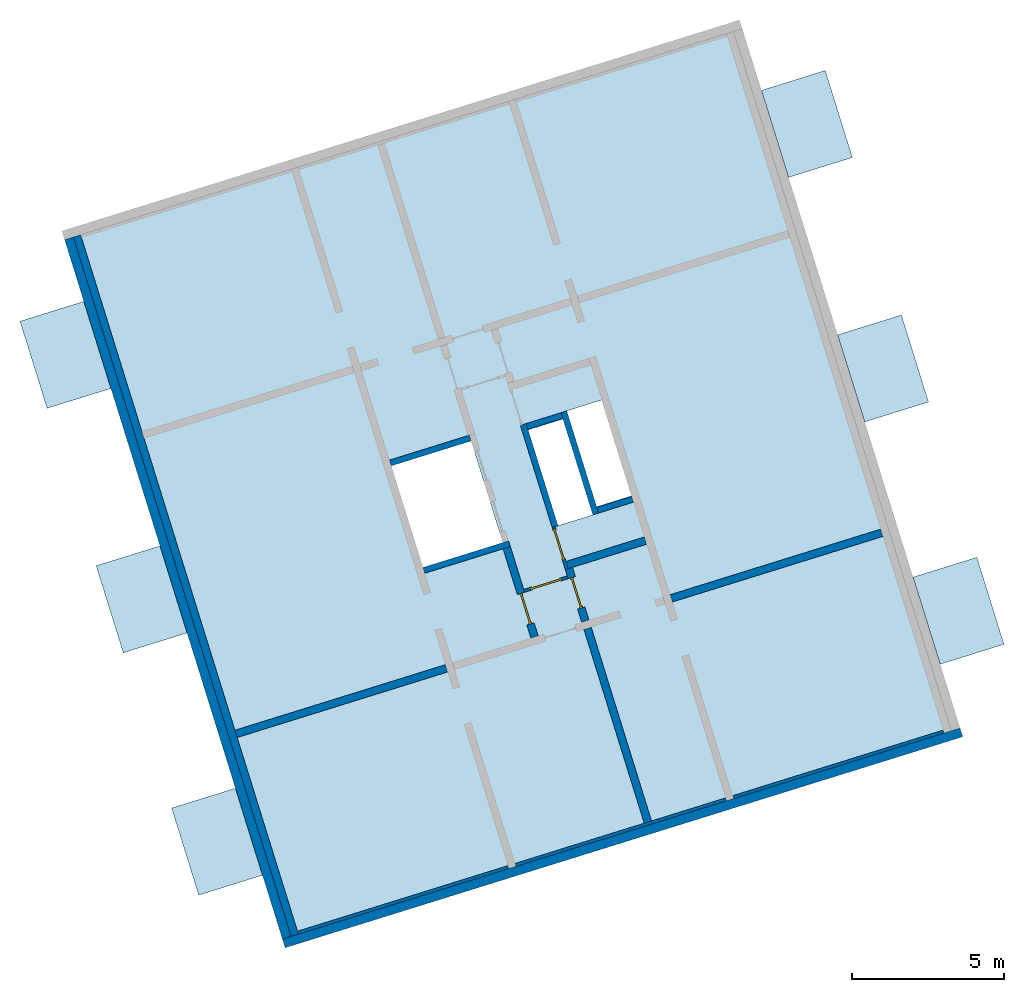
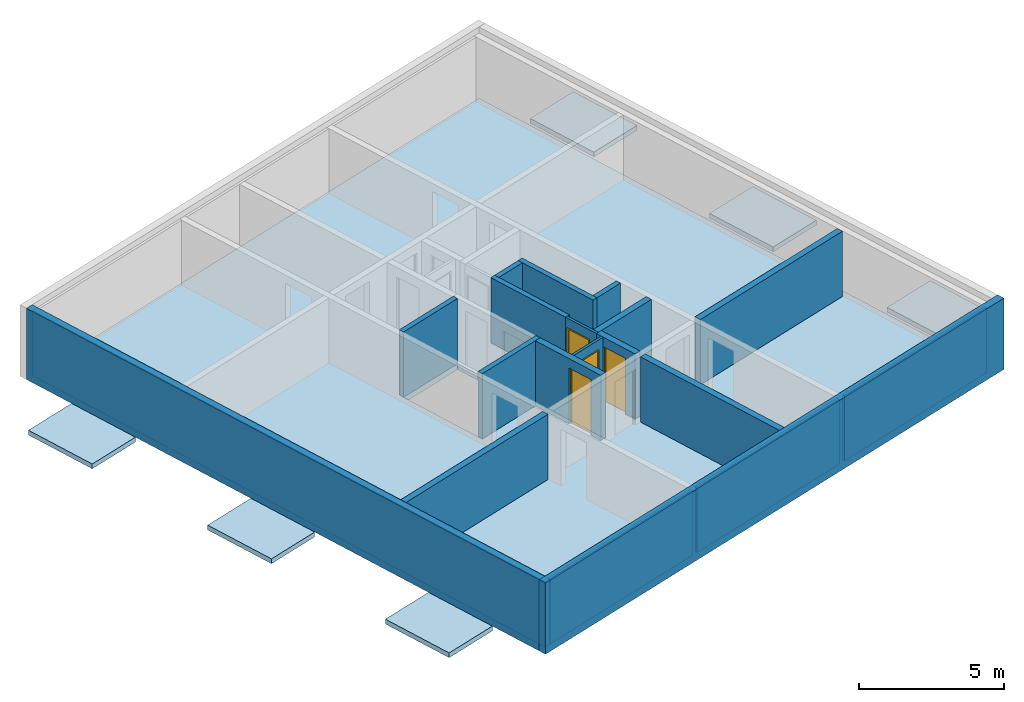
# One storey, part 1 of 3: 20 walls, 7 slabs, 4 doors, 6 openings.
"""IFC4 building model written with IfcOpenShell, lengths in metres."""

from ifc_helpers import new_model, entity, si_unit, converted_unit, direction, frame, origin, place, context, subcontext, project, spatial, indexed_curve, outline, extrude, polygons, source, transform, mapped, material, constituent, constituent_set, type_object, type_shapes, element, fill, save


model = new_model("IFC4")

# Units and contexts
model_context = context("Model", 3, precision=1e-05, world=origin(), true_north=direction((6.12323399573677e-17, 1.0)))
body_context = subcontext(model_context, "Body", "Model", "MODEL_VIEW")
ifc_project = project(units=[si_unit("LENGTHUNIT", "METRE"), si_unit("AREAUNIT", "SQUARE_METRE"), si_unit("VOLUMEUNIT", "CUBIC_METRE"), converted_unit("PLANEANGLEUNIT", "DEGREE", entity("IfcPlaneAngleMeasure", 0.0174532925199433), si_unit("PLANEANGLEUNIT", "RADIAN"), dimensions=[0, 0, 0, 0, 0, 0, 0])], contexts=[model_context])

# Site, building, storey
site_placement = place(None, frame((13.1347999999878, 11.9886000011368, 0.0), z_axis=(0.0, 0.0, 1.0), x_axis=(0.954770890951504, 0.297342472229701, 0.0)))
site = spatial("IfcSite", under=ifc_project, at=site_placement, Name="Schiehaven", CompositionType="ELEMENT")
building_placement = place(site_placement, origin())
building = spatial("IfcBuilding", under=site, at=building_placement, Name="VORM huis", CompositionType="ELEMENT")
storey_placement = place(building_placement, frame((0.0, 0.0, 24.9)))
storey = spatial("IfcBuildingStorey", under=building, at=storey_placement, Name="08 achtste verdieping", CompositionType="ELEMENT", Elevation=24.9)

# Slab, openings
ifc_material_1 = material(Name="beton_gewapend_ihw", Category="Miscellaneous")
slab_type_1 = type_object("IfcSlabType", Name="Floor:28_FL_skelet_vloer 250mm", PredefinedType="FLOOR", material=ifc_material_1)
slab_1_placement = place(storey_placement, origin())
slab_1 = element("IfcSlab", 1, at=slab_1_placement, inside=storey, type_object=slab_type_1, material=ifc_material_1, Name="Constructieve vloer", ObjectType="Vloer", PredefinedType="FLOOR", context=body_context, shape_type="SweptSolid", body=[
    extrude(outline(indexed_curve([(-12.05, -11.375), (12.05, -11.375), (12.05, 11.375), (-12.05, 11.375), (-12.05, -11.375)], self_intersect=False), holes=[indexed_curve([(-1.75000000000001, -3.62500000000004), (-1.75000000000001, -0.875000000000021), (1.74999999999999, -0.875000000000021), (1.74999999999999, -3.62500000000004), (-1.75000000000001, -3.62500000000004)], self_intersect=False), indexed_curve([(1.76, 2.22499999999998), (1.76, 1.02499999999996), (-1.54, 1.02499999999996), (-1.54, 2.22499999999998), (1.76, 2.22499999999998)], self_intersect=False), indexed_curve([(-1.75999999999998, 3.62499999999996), (1.54, 3.62499999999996), (1.54, 2.42499999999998), (-1.75999999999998, 2.42499999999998), (-1.75999999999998, 3.62499999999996)], self_intersect=False)]), frame((16.2500000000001, 17.05, -0.249999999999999), z_axis=(0.0, 0.0, 1.0), x_axis=(0.0, -1.0, 0.0)), (0.0, 0.0, 1.0), 0.249999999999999),
])
opening_1_placement = place(slab_1_placement, origin())
element("IfcOpeningElement", 2, at=opening_1_placement, cuts=slab_1, Name="Constructieve vloer", PredefinedType="OPENING", context=body_context, shape_type="SweptSolid", body=[
    extrude(outline(indexed_curve([(-1.74999999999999, -1.37500000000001), (1.75, -1.37500000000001), (1.75, 1.37500000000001), (-1.75, 1.37500000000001), (-1.74999999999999, -1.37500000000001)], self_intersect=False)), frame((14.0, 17.05, -0.249999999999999), z_axis=(0.0, 0.0, 1.0), x_axis=(0.0, -1.0, 0.0)), (0.0, 0.0, 1.0), 0.249999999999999),
])
opening_2_placement = place(slab_1_placement, origin())
element("IfcOpeningElement", 3, at=opening_2_placement, cuts=slab_1, Name="Constructieve vloer", PredefinedType="OPENING", context=body_context, shape_type="SweptSolid", body=[
    extrude(outline(indexed_curve([(-1.65, -0.600000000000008), (1.65, -0.600000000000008), (1.65, 0.600000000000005), (-1.65, 0.600000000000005), (-1.65, -0.600000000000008)], self_intersect=False)), frame((17.8750000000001, 16.94, -0.249999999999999), z_axis=(0.0, 0.0, 1.0), x_axis=(0.0, 1.0, 0.0)), (0.0, 0.0, 1.0), 0.249999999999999),
])

# Slabs
ifc_material_2 = material(Name="beton_gewapend_prefab-element", Category="Miscellaneous")
slab_type_2 = type_object("IfcSlabType", Name="Floor:23_FL_skelet_balkon 200mm", PredefinedType="FLOOR", material=ifc_material_2)
slab_2_placement = place(storey_placement, origin())
element("IfcSlab", 4, at=slab_2_placement, inside=storey, type_object=slab_type_2, material=ifc_material_2, Name="Balkonvloer", ObjectType="Vloer", PredefinedType="FLOOR", context=body_context, shape_type="SweptSolid", body=[
    extrude(outline(indexed_curve([(-1.5, -1.1), (1.5, -1.1), (1.5, 1.09999999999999), (-1.5, 1.09999999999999), (-1.5, -1.1)], self_intersect=False)), frame((29.0250000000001, 25.475, 0.0), z_axis=(0.0, 0.0, -1.0), x_axis=(0.0, 1.0, 0.0)), (0.0, 0.0, 1.0), 0.199999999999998),
])
slab_3_placement = place(storey_placement, origin())
element("IfcSlab", 5, at=slab_3_placement, inside=storey, type_object=slab_type_2, material=ifc_material_2, Name="Balkonvloer", ObjectType="Vloer", PredefinedType="FLOOR", context=body_context, shape_type="SweptSolid", body=[
    extrude(outline(indexed_curve([(-1.5, -1.1), (1.5, -1.1), (1.5, 1.1), (-1.5, 1.1), (-1.5, -1.1)], self_intersect=False)), frame((29.0250000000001, 8.70000000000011, 0.0), z_axis=(0.0, 0.0, -1.0), x_axis=(0.0, 1.0, 0.0)), (0.0, 0.0, 1.0), 0.199999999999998),
])
slab_4_placement = place(storey_placement, origin())
element("IfcSlab", 6, at=slab_4_placement, inside=storey, type_object=slab_type_2, material=ifc_material_2, Name="Balkonvloer", ObjectType="Vloer", PredefinedType="FLOOR", context=body_context, shape_type="SweptSolid", body=[
    extrude(outline(indexed_curve([(-1.5, -1.1), (1.5, -1.1), (1.5, 1.1), (-1.5, 1.1), (-1.5, -1.1)], self_intersect=False)), frame((29.0250000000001, 17.05, 0.0), z_axis=(0.0, 0.0, -1.0), x_axis=(0.0, 1.0, 0.0)), (0.0, 0.0, 1.0), 0.199999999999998),
])
slab_5_placement = place(storey_placement, origin())
element("IfcSlab", 7, at=slab_5_placement, inside=storey, type_object=slab_type_2, material=ifc_material_2, Name="Balkonvloer", ObjectType="Vloer", PredefinedType="FLOOR", context=body_context, shape_type="SweptSolid", body=[
    extrude(outline(indexed_curve([(-1.49999999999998, -1.1), (1.50000000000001, -1.1), (1.49999999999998, 1.1), (-1.50000000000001, 1.1), (-1.49999999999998, -1.1)], self_intersect=False)), frame((3.47500000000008, 25.4750000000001, 0.0), z_axis=(0.0, 0.0, -1.0), x_axis=(0.0, 1.0, 0.0)), (0.0, 0.0, 1.0), 0.199999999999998),
])
slab_6_placement = place(storey_placement, origin())
element("IfcSlab", 8, at=slab_6_placement, inside=storey, type_object=slab_type_2, material=ifc_material_2, Name="Balkonvloer", ObjectType="Vloer", PredefinedType="FLOOR", context=body_context, shape_type="SweptSolid", body=[
    extrude(outline(indexed_curve([(-1.49999999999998, -1.1), (1.50000000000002, -1.1), (1.49999999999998, 1.1), (-1.50000000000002, 1.1), (-1.49999999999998, -1.1)], self_intersect=False)), frame((3.47499999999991, 8.70000000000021, 0.0), z_axis=(0.0, 0.0, -1.0), x_axis=(0.0, 1.0, 0.0)), (0.0, 0.0, 1.0), 0.199999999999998),
])
slab_7_placement = place(storey_placement, origin())
element("IfcSlab", 9, at=slab_7_placement, inside=storey, type_object=slab_type_2, material=ifc_material_2, Name="Balkonvloer", ObjectType="Vloer", PredefinedType="FLOOR", context=body_context, shape_type="SweptSolid", body=[
    extrude(outline(indexed_curve([(-1.49999999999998, -1.1), (1.50000000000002, -1.1), (1.49999999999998, 1.1), (-1.50000000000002, 1.1), (-1.49999999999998, -1.1)], self_intersect=False)), frame((3.47499999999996, 17.0500000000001, 0.0), z_axis=(0.0, 0.0, -1.0), x_axis=(0.0, 1.0, 0.0)), (0.0, 0.0, 1.0), 0.199999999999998),
])

# Walls
wall_type_1 = type_object("IfcWallType", Name="Basic Wall:28_WA_skelet_wand 250mm_gen", PredefinedType="STANDARD")
wall_1_placement = place(storey_placement, frame((5.0, 5.0, 0.0), z_axis=(0.0, 0.0, 1.0), x_axis=(0.0, 1.0, 0.0)))
element("IfcWall", 10, at=wall_1_placement, inside=storey, type_object=wall_type_1, material=ifc_material_1, Name="Constructieve wand", ObjectType="Wand", PredefinedType="NOTDEFINED", context=body_context, shape_type="SweptSolid", body=[
    extrude(outline(indexed_curve([(24.1, 0.125), (4.21737840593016e-16, 0.125), (-4.21737840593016e-16, -0.125), (24.1, -0.125), (24.1, 0.125)], self_intersect=False)), origin(), (0.0, 0.0, 1.0), 2.75),
])
ifc_material_3 = material(Name="ntb_ntb_ntb", Category="Miscellaneous")
wall_type_2 = type_object("IfcWallType", Name="Basic Wall:21_WA_gevel_binnenspouwwand 100mm_gen", PredefinedType="STANDARD")
wall_2_placement = place(storey_placement, frame((5.12500000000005, 5.05000000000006, 0.0)))
element("IfcWall", 11, at=wall_2_placement, inside=storey, type_object=wall_type_2, material=ifc_material_3, Name="Binnenspouwblad", ObjectType="Wand", PredefinedType="NOTDEFINED", context=body_context, shape_type="SweptSolid", body=[
    extrude(outline(indexed_curve([(7.24999999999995, 0.0500000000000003), (-1.84844170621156e-16, 0.0500000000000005), (1.84844170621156e-16, -0.0500000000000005), (7.24999999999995, -0.0500000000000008), (7.24999999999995, 0.0500000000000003)], self_intersect=False)), origin(), (0.0, 0.0, 1.0), 2.75),
])
wall_3_placement = place(storey_placement, frame((19.875, 5.04999999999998, 0.0), z_axis=(0.0, 0.0, 1.0), x_axis=(-1.0, 0.0, 0.0)))
element("IfcWall", 12, at=wall_3_placement, inside=storey, type_object=wall_type_2, material=ifc_material_3, Name="Binnenspouwblad", ObjectType="Wand", PredefinedType="NOTDEFINED", context=body_context, shape_type="SweptSolid", body=[
    extrude(outline(indexed_curve([(7.24999999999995, 0.050000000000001), (-3.3903742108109e-16, 0.0500000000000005), (3.3903742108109e-16, -0.0500000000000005), (7.24999999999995, -0.0500000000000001), (7.24999999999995, 0.050000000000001)], self_intersect=False)), origin(), (0.0, 0.0, 1.0), 2.75),
])
wall_4_placement = place(storey_placement, frame((20.1250000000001, 5.04999999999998, 0.0)))
element("IfcWall", 13, at=wall_4_placement, inside=storey, type_object=wall_type_2, material=ifc_material_3, Name="Binnenspouwblad", ObjectType="Wand", PredefinedType="NOTDEFINED", context=body_context, shape_type="SweptSolid", body=[
    extrude(outline(indexed_curve([(7.24999999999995, 0.0499999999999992), (-1.84844170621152e-16, 0.0499999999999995), (1.84844170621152e-16, -0.0499999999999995), (7.24999999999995, -0.0499999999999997), (7.24999999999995, 0.0499999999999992)], self_intersect=False)), origin(), (0.0, 0.0, 1.0), 2.75),
])
wall_type_3 = type_object("IfcWallType", Name="Basic Wall: 300mm_gen", PredefinedType="STANDARD")
wall_5_placement = place(storey_placement, frame((4.72500000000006, 5.0, 0.0), z_axis=(0.0, 0.0, 1.0), x_axis=(0.0, 1.0, 0.0)))
element("IfcWall", 14, at=wall_5_placement, inside=storey, type_object=wall_type_3, material=ifc_material_3, Name="Gevelwand", ObjectType="Wand", PredefinedType="NOTDEFINED", context=body_context, shape_type="SweptSolid", body=[
    extrude(outline(indexed_curve([(24.1, 0.15), (-3.8304924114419e-16, 0.15), (-6.99817888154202e-16, -0.15), (24.1, -0.15), (24.1, 0.15)], self_intersect=False)), origin(), (0.0, 0.0, 1.0), 3.0),
])
wall_6_placement = place(storey_placement, frame((27.9250000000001, 4.85000000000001, 0.0), z_axis=(0.0, 0.0, 1.0), x_axis=(-1.0, 0.0, 0.0)))
element("IfcWall", 15, at=wall_6_placement, inside=storey, type_object=wall_type_3, material=ifc_material_3, Name="Gevelwand", ObjectType="Wand", PredefinedType="NOTDEFINED", context=body_context, shape_type="SweptSolid", body=[
    extrude(outline(indexed_curve([(23.35, 0.15), (-3.8304924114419e-16, 0.15), (3.83049241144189e-16, -0.149999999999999), (23.35, -0.149999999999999), (23.35, 0.15)], self_intersect=False)), origin(), (0.0, 0.0, 1.0), 3.0),
])
wall_type_4 = type_object("IfcWallType", Name="Basic Wall:28_WA_skelet_wand 200mm_gen", PredefinedType="STANDARD")
wall_7_placement = place(storey_placement, frame((12.6250000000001, 15.2, 0.0)))
element("IfcWall", 16, at=wall_7_placement, inside=storey, type_object=wall_type_4, material=ifc_material_2, Name="Constructieve wand", ObjectType="Wand", PredefinedType="NOTDEFINED", context=body_context, shape_type="SweptSolid", body=[
    extrude(outline(indexed_curve([(2.95, 0.100000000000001), (-3.51397851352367e-16, 0.100000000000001), (3.51397851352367e-16, -0.100000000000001), (2.95, -0.100000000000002), (2.95, 0.100000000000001)], self_intersect=False)), origin(), (0.0, 0.0, 1.0), 2.75),
])
wall_8_placement = place(storey_placement, frame((15.3750000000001, 18.9, 0.0), z_axis=(0.0, 0.0, 1.0), x_axis=(-1.0, 0.0, 0.0)))
element("IfcWall", 17, at=wall_8_placement, inside=storey, type_object=wall_type_4, material=ifc_material_2, Name="Constructieve wand", ObjectType="Wand", PredefinedType="NOTDEFINED", context=body_context, shape_type="SweptSolid", body=[
    extrude(outline(indexed_curve([(2.75, 0.100000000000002), (-2.05391259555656e-16, 0.100000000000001), (2.05391259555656e-16, -0.100000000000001), (2.75, -0.0999999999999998), (2.75, 0.100000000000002)], self_intersect=False)), origin(), (0.0, 0.0, 1.0), 2.75),
])
wall_9_placement = place(storey_placement, frame((17.1750000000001, 15.29, 0.0), z_axis=(0.0, 0.0, 1.0), x_axis=(0.0, 1.0, 0.0)))
element("IfcWall", 18, at=wall_9_placement, inside=storey, type_object=wall_type_4, material=ifc_material_2, Name="Constructieve wand", ObjectType="Wand", PredefinedType="NOTDEFINED", context=body_context, shape_type="SweptSolid", body=[
    extrude(outline(indexed_curve([(3.52, 0.0999999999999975), (-5.13023966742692e-16, 0.0999999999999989), (5.13023966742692e-16, -0.0999999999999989), (3.52, -0.1), (3.52, 0.0999999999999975)], self_intersect=False)), origin(), (0.0, 0.0, 1.0), 2.75),
])
wall_10_placement = place(storey_placement, frame((18.5750000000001, 15.29, 0.0), z_axis=(0.0, 0.0, 1.0), x_axis=(0.0, 1.0, 0.0)))
element("IfcWall", 19, at=wall_10_placement, inside=storey, type_object=wall_type_4, material=ifc_material_2, Name="Constructieve wand", ObjectType="Wand", PredefinedType="NOTDEFINED", context=body_context, shape_type="SweptSolid", body=[
    extrude(outline(indexed_curve([(3.52, 0.0999999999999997), (-6.36077049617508e-16, 0.0999999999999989), (6.36077049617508e-16, -0.0999999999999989), (3.52, -0.0999999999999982), (3.52, 0.0999999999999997)], self_intersect=False)), origin(), (0.0, 0.0, 1.0), 2.75),
])
wall_type_5 = type_object("IfcWallType", Name="Basic Wall:22_WA_afbouw_binnenwand 250mm_gen", PredefinedType="STANDARD")
wall_11_placement = place(storey_placement, frame((20.125, 11.9, 0.0)))
element("IfcWall", 20, at=wall_11_placement, inside=storey, type_object=wall_type_5, material=ifc_material_3, Name="Binnenwand", ObjectType="Wand", PredefinedType="NOTDEFINED", context=body_context, shape_type="SweptSolid", body=[
    extrude(outline(indexed_curve([(7.24999999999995, 0.125), (-1.92055213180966e-16, 0.125), (1.92055213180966e-16, -0.125), (7.24999999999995, -0.124999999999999), (7.24999999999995, 0.125)], self_intersect=False)), origin(), (0.0, 0.0, 1.0), 2.75),
])
wall_12_placement = place(storey_placement, frame((17.2000000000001, 11.775, 0.0), z_axis=(0.0, 0.0, 1.0), x_axis=(0.0, -1.0, 0.0)))
element("IfcWall", 21, at=wall_12_placement, inside=storey, type_object=wall_type_5, material=ifc_material_3, Name="Binnenwand", ObjectType="Wand", PredefinedType="NOTDEFINED", context=body_context, shape_type="SweptSolid", body=[
    extrude(outline(indexed_curve([(6.67500000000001, 0.125000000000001), (-2.98792823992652e-16, 0.125), (2.98792823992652e-16, -0.125), (6.67500000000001, -0.124999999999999), (6.67500000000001, 0.125000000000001)], self_intersect=False)), origin(), (0.0, 0.0, 1.0), 2.75),
])
wall_13_placement = place(storey_placement, frame((12.3750000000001, 11.9, 0.0), z_axis=(0.0, 0.0, 1.0), x_axis=(-1.0, 0.0, 0.0)))
element("IfcWall", 22, at=wall_13_placement, inside=storey, type_object=wall_type_5, material=ifc_material_3, Name="Binnenwand", ObjectType="Wand", PredefinedType="NOTDEFINED", context=body_context, shape_type="SweptSolid", body=[
    extrude(outline(indexed_curve([(7.24999999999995, 0.125), (-1.96773443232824e-16, 0.125), (1.96773443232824e-16, -0.125), (7.24999999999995, -0.124999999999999), (7.24999999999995, 0.125)], self_intersect=False)), origin(), (0.0, 0.0, 1.0), 2.75),
])

# Wall, opening, door
wall_14_placement = place(storey_placement, frame((17.2000000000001, 13.84, 0.0), z_axis=(0.0, 0.0, 1.0), x_axis=(0.0, -1.0, 0.0)))
wall_14 = element("IfcWall", 23, at=wall_14_placement, inside=storey, type_object=wall_type_5, material=ifc_material_3, Name="Binnenwand", ObjectType="Wand", PredefinedType="NOTDEFINED", context=body_context, shape_type="Tessellation", body=[
    polygons([(-2.16573425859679e-15, -0.125, 0.0), (0.215000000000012, -0.124999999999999, 0.0), (0.315000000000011, -0.124999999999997, 0.0), (0.315000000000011, -0.124999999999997, 2.34999999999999), (1.36500000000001, -0.124999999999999, 2.34999999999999), (1.36500000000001, -0.124999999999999, 0.0), (1.81499999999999, -0.125000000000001, 0.0), (1.81499999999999, -0.125000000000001, 2.75), (0.315000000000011, -0.124999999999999, 2.75), (0.215000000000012, -0.124999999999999, 2.75), (-2.16573425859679e-15, -0.125, 2.75), (0.315000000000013, 0.125, 2.34999999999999), (0.315000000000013, 0.125, 0.0), (0.0, 0.124999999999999, 0.0), (0.0, 0.124999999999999, 2.75), (1.81499999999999, 0.124999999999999, 2.75), (1.81499999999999, 0.124999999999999, 0.0), (1.36500000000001, 0.125, 0.0), (1.36500000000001, 0.125, 2.34999999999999), (-2.16573425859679e-15, -0.0250000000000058, 0.0), (-2.16573425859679e-15, -0.0250000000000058, 2.75)], [[[1, 2, 3, 4, 5, 6, 7, 8, 9, 10, 11]], [[12, 13, 14, 15, 16, 17, 18, 19]], [[14, 13, 3, 2, 1, 20]], [[8, 7, 17, 16]], [[11, 10, 9, 8, 16, 15, 21]], [[6, 5, 19, 18]], [[4, 3, 13, 12]], [[5, 4, 12, 19]], [[1, 11, 21, 15, 14, 20]], [[18, 17, 7, 6]]], closed=True),
])
opening_3_placement = place(wall_14_placement, frame((1.36500000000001, 0.125000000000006, 0.0)))
opening_3 = element("IfcOpeningElement", 24, at=opening_3_placement, cuts=wall_14, Name="Woningtoegangsdeur", PredefinedType="OPENING", context=body_context, shape_type="SweptSolid", body=[
    extrude(outline(indexed_curve([(2.34999999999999, 1.35358391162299e-15), (2.34999999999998, 1.05), (0.0, 1.05), (2.16573425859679e-15, 1.35358391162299e-15), (2.34999999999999, 1.35358391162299e-15)], self_intersect=False)), frame((0.0, 0.0, 0.0), z_axis=(0.0, -1.0, 0.0), x_axis=(0.0, 0.0, 1.0)), (0.0, 0.0, 1.0), 0.25),
])
ifc_material_4 = material(Name="PD_a_binnenwandopeningen", Category="Miscellaneous")
ifc_constituent_1 = constituent(ifc_material_4, Name="PD_a_binnenwandopeningen", Category="Miscellaneous")
ifc_material_5 = material(Name="metaal_aluminium_ntb", Category="Miscellaneous")
ifc_constituent_2 = constituent(ifc_material_5, Name="metaal_aluminium_ntb", Category="Miscellaneous")
ifc_constituent_set_1 = constituent_set(constituents=[ifc_constituent_1, ifc_constituent_2])
ifc_constituent_3 = constituent(ifc_material_4, Name="PD_a_binnenwandopeningen", Category="Miscellaneous")
ifc_constituent_4 = constituent(ifc_material_5, Name="Panel", Category="Miscellaneous")
ifc_constituent_set_2 = constituent_set(constituents=[ifc_constituent_3, ifc_constituent_4])
door_type_1 = type_object("IfcDoorType", Name="32_DO_binnendeur enkel:woningtoegangsdeur", OperationType="REVOLVING", PredefinedType="DOOR", material=ifc_constituent_set_2)
shared_shape_1 = source(origin(), body_context, "Body", "SweptSolid", [
    extrude(outline(indexed_curve([(0.475, -1.16249999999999), (0.525000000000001, -1.16249999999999), (0.525000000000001, 1.18749999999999), (-0.525000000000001, 1.18749999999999), (-0.525000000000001, -1.16249999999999), (-0.475, -1.16249999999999), (-0.475, 1.13749999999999), (0.475, 1.13749999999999), (0.475, -1.16249999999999)], self_intersect=False)), frame((0.525000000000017, 0.174999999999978, 1.16249999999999), z_axis=(0.0, -1.0, 0.0), x_axis=(1.0, 0.0, 0.0)), (0.0, 0.0, 1.0), 0.1),
    extrude(outline(indexed_curve([(-0.475, -0.025), (0.475, -0.025), (0.475, 0.025), (-0.475, 0.025), (-0.475, -0.025)], self_intersect=False)), frame((0.525000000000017, 0.12499999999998, 0.0)), (0.0, 0.0, 1.0), 2.29999999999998),
])
type_shapes(door_type_1, [shared_shape_1])
door_1_placement = place(opening_3_placement, frame((0.0, 0.0, 0.0), z_axis=(0.0, 0.0, 1.0), x_axis=(-1.0, 0.0, 0.0)))
door_1 = element("IfcDoor", 25, at=door_1_placement, inside=storey, type_object=door_type_1, material=ifc_constituent_set_1, Name="Woningtoegangsdeur", ObjectType="Deur", OperationType="REVOLVING", OverallHeight=2.34999999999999, OverallWidth=1.05, PredefinedType="DOOR", context=body_context, shape_type="MappedRepresentation", body=[
    mapped(shared_shape_1, transform((0.0, 0.0, 0.0), scale=1.0)),
])
fill(opening_3, door_1)

wall_15_placement = place(storey_placement, frame((15.4500000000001, 15.1, 0.0), z_axis=(0.0, 0.0, 1.0), x_axis=(0.0, -1.0, 0.0)))
wall_15 = element("IfcWall", 26, at=wall_15_placement, inside=storey, type_object=wall_type_5, material=ifc_material_3, Name="Binnenwand", ObjectType="Wand", PredefinedType="NOTDEFINED", context=body_context, shape_type="Tessellation", body=[
    polygons([(2.62500000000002, -0.124999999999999, 2.34999999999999), (2.62500000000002, -0.124999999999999, 0.0), (3.07499999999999, -0.124999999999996, 0.0), (3.07499999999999, -0.124999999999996, 2.75), (0.0, -0.125000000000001, 2.75), (0.0, -0.125000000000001, 0.0), (1.57500000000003, -0.124999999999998, 0.0), (1.57500000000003, -0.124999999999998, 2.34999999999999), (3.07499999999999, 0.125000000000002, 0.0), (2.62500000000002, 0.125000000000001, 0.0), (2.62500000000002, 0.125000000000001, 2.34999999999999), (1.57500000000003, 0.125000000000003, 2.34999999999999), (1.57500000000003, 0.125000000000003, 0.0), (1.475, 0.125000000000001, 0.0), (0.0, 0.125000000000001, 0.0), (0.0, 0.125000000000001, 2.75), (1.475, 0.125000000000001, 2.75), (1.575, 0.125000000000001, 2.75), (3.07499999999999, 0.125000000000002, 2.75)], [[[1, 2, 3, 4, 5, 6, 7, 8]], [[9, 10, 11, 12, 13, 14, 15, 16, 17, 18, 19]], [[7, 6, 15, 14, 13]], [[4, 3, 9, 19]], [[5, 4, 19, 18, 17, 16]], [[6, 5, 16, 15]], [[13, 12, 8, 7]], [[11, 10, 2, 1]], [[12, 11, 1, 8]], [[3, 2, 10, 9]]], closed=True),
])
opening_4_placement = place(wall_15_placement, frame((1.57500000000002, -0.124999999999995, 0.0)))
opening_4 = element("IfcOpeningElement", 27, at=opening_4_placement, cuts=wall_15, Name="Woningtoegangsdeur", PredefinedType="OPENING", context=body_context, shape_type="SweptSolid", body=[
    extrude(outline(indexed_curve([(2.34999999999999, 1.35358391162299e-15), (2.34999999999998, 1.05), (0.0, 1.05), (2.16573425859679e-15, 1.35358391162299e-15), (2.34999999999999, 1.35358391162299e-15)], self_intersect=False)), frame((0.0, 0.0, 0.0), z_axis=(0.0, 1.0, 0.0), x_axis=(0.0, 0.0, 1.0)), (0.0, 0.0, 1.0), 0.25),
])
ifc_constituent_5 = constituent(ifc_material_4, Name="PD_a_binnenwandopeningen", Category="Miscellaneous")
ifc_constituent_6 = constituent(ifc_material_5, Name="metaal_aluminium_ntb", Category="Miscellaneous")
ifc_constituent_set_3 = constituent_set(constituents=[ifc_constituent_5, ifc_constituent_6])
door_2_placement = place(opening_4_placement, origin())
door_2 = element("IfcDoor", 28, at=door_2_placement, inside=storey, type_object=door_type_1, material=ifc_constituent_set_3, Name="Woningtoegangsdeur", ObjectType="Deur", OperationType="REVOLVING", OverallHeight=2.34999999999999, OverallWidth=1.05, PredefinedType="DOOR", context=body_context, shape_type="MappedRepresentation", body=[
    mapped(shared_shape_1, transform((0.0, 0.0, 0.0), scale=1.0)),
])
fill(opening_4, door_2)

# Wall
wall_16_placement = place(storey_placement, frame((19.8750000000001, 13.965, 0.0), z_axis=(0.0, 0.0, 1.0), x_axis=(-1.0, 0.0, 0.0)))
element("IfcWall", 29, at=wall_16_placement, inside=storey, type_object=wall_type_5, material=ifc_material_3, Name="Binnenwand", ObjectType="Wand", PredefinedType="NOTDEFINED", context=body_context, shape_type="SweptSolid", body=[
    extrude(outline(indexed_curve([(2.70000000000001, 0.124999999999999), (-3.69797181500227e-16, 0.125), (3.69797181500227e-16, -0.125), (2.70000000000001, -0.125), (2.70000000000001, 0.124999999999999)], self_intersect=False)), origin(), (0.0, 0.0, 1.0), 2.75),
])

# Wall, opening, door
wall_type_6 = type_object("IfcWallType", Name="Basic Wall:22_WA_afbouw_binnenwand 100mm_gen", PredefinedType="STANDARD")
wall_17_placement = place(storey_placement, frame((17.1250000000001, 13.84, 0.0), z_axis=(0.0, 0.0, 1.0), x_axis=(0.0, 1.0, 0.0)))
wall_17 = element("IfcWall", 30, at=wall_17_placement, inside=storey, type_object=wall_type_6, material=ifc_material_3, Name="Binnenwand", ObjectType="Wand", PredefinedType="NOTDEFINED", context=body_context, shape_type="Tessellation", body=[
    polygons([(1.44999999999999, -0.0500000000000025, 0.0), (1.44999999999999, -0.0500000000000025, 2.75), (0.249999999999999, -0.0500000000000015, 2.75), (0.0, -0.0500000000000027, 2.75), (0.0, -0.0500000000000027, 0.0), (0.249999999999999, -0.0500000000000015, 0.0), (0.324999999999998, -0.0500000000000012, 0.0), (0.324999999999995, -0.0500000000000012, 2.34999999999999), (1.375, -0.0500000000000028, 2.34999999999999), (1.375, -0.0500000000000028, 0.0), (1.44999999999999, 0.0499999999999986, 2.75), (1.44999999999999, 0.0499999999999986, 0.0), (1.37499999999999, 0.0499999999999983, 0.0), (1.37499999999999, 0.0500000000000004, 2.34999999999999), (0.324999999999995, 0.0500000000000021, 2.34999999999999), (0.324999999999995, 0.0499999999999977, 0.0), (-2.16573425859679e-15, 0.0500000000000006, 0.0), (-2.16573425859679e-15, 0.0500000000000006, 2.75)], [[[1, 2, 3, 4, 5, 6, 7, 8, 9, 10]], [[11, 12, 13, 14, 15, 16, 17, 18]], [[5, 17, 16, 7, 6]], [[2, 1, 12, 11]], [[4, 3, 2, 11, 18]], [[15, 8, 7, 16]], [[9, 14, 13, 10]], [[8, 15, 14, 9]], [[5, 4, 18, 17]], [[12, 1, 10, 13]]], closed=True),
])
opening_5_placement = place(wall_17_placement, frame((1.375, 0.0499999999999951, 0.0)))
opening_5 = element("IfcOpeningElement", 31, at=opening_5_placement, cuts=wall_17, Name="Vluchtdeur", PredefinedType="OPENING", context=body_context, shape_type="SweptSolid", body=[
    extrude(outline(indexed_curve([(2.34999999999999, 1.05), (0.0, 1.05), (0.0, 1.35358391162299e-15), (2.34999999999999, 1.35358391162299e-15), (2.34999999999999, 1.05)], self_intersect=False)), frame((0.0, 0.0, 0.0), z_axis=(0.0, -1.0, 0.0), x_axis=(0.0, 0.0, 1.0)), (0.0, 0.0, 1.0), 0.1),
])
ifc_constituent_7 = constituent(ifc_material_4, Name="PD_a_binnenwandopeningen", Category="Miscellaneous")
ifc_constituent_8 = constituent(ifc_material_5, Name="metaal_aluminium_ntb", Category="Miscellaneous")
ifc_constituent_set_4 = constituent_set(constituents=[ifc_constituent_7, ifc_constituent_8])
ifc_constituent_9 = constituent(ifc_material_4, Name="PD_a_binnenwandopeningen", Category="Miscellaneous")
ifc_constituent_10 = constituent(ifc_material_5, Name="Panel", Category="Miscellaneous")
ifc_constituent_set_5 = constituent_set(constituents=[ifc_constituent_9, ifc_constituent_10])
door_type_2 = type_object("IfcDoorType", Name="32_DO_binnendeur enkel:binnendeur zelfsluitend 30min", OperationType="NOTDEFINED", PredefinedType="DOOR", material=ifc_constituent_set_5)
shared_shape_2 = source(origin(), body_context, "Body", "SweptSolid", [
    extrude(outline(indexed_curve([(-1.16249999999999, -0.525000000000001), (1.18749999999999, -0.525), (1.18749999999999, 0.525), (-1.16249999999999, 0.525), (-1.16249999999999, 0.475), (1.13749999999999, 0.475), (1.13749999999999, -0.475), (-1.16249999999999, -0.475), (-1.16249999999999, -0.525000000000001)], self_intersect=False)), frame((0.525000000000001, 0.0, 1.16249999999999), z_axis=(0.0, 1.0, 0.0), x_axis=(0.0, 0.0, 1.0)), (0.0, 0.0, 1.0), 0.1),
    extrude(outline(indexed_curve([(-0.025, -0.475), (0.025, -0.475), (0.025, 0.475), (-0.025, 0.475), (-0.025, -0.475)], self_intersect=False)), frame((0.525000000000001, 0.0499999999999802, 0.0), z_axis=(0.0, 0.0, 1.0), x_axis=(0.0, 1.0, 0.0)), (0.0, 0.0, 1.0), 2.29999999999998),
])
type_shapes(door_type_2, [shared_shape_2])
door_3_placement = place(opening_5_placement, frame((0.0, 0.0, 0.0), z_axis=(0.0, 0.0, 1.0), x_axis=(-1.0, 0.0, 0.0)))
door_3 = element("IfcDoor", 32, at=door_3_placement, inside=storey, type_object=door_type_2, material=ifc_constituent_set_4, Name="Vluchtdeur", ObjectType="Deur", OperationType="NOTDEFINED", OverallHeight=2.34999999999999, OverallWidth=1.05, PredefinedType="DOOR", context=body_context, shape_type="MappedRepresentation", body=[
    mapped(shared_shape_2, transform((0.0, 0.0, 0.0), scale=1.0)),
])
fill(opening_5, door_3)

wall_18_placement = place(storey_placement, frame((17.0750000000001, 13.575, 0.0), z_axis=(0.0, 0.0, 1.0), x_axis=(-1.0, 0.0, 0.0)))
wall_18 = element("IfcWall", 33, at=wall_18_placement, inside=storey, type_object=wall_type_6, material=ifc_material_3, Name="Binnenwand", ObjectType="Wand", PredefinedType="NOTDEFINED", context=body_context, shape_type="Tessellation", body=[
    polygons([(1.5, -0.0499999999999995, 2.75), (-1.35141276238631e-15, -0.0499999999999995, 2.75), (-1.35141276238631e-15, -0.0499999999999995, 0.0), (0.224999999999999, -0.0499999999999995, 0.0), (0.224999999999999, -0.0499999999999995, 2.34999999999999), (1.275, -0.0499999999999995, 2.34999999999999), (1.275, -0.0499999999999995, 0.0), (1.5, -0.0499999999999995, 0.0), (-2.16804959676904e-15, 0.0500000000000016, 2.75), (1.5, 0.0499999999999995, 2.75), (1.50000000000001, 0.0499999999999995, 2.34999999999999), (1.5, 0.0499999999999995, 0.0), (1.275, 0.0499999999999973, 0.0), (1.275, 0.0499999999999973, 2.34999999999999), (0.224999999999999, 0.0500000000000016, 2.34999999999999), (0.224999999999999, 0.0500000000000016, 0.0), (-2.16804959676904e-15, 0.0500000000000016, 0.0), (-2.31533817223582e-18, 0.0499999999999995, 2.34999999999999)], [[[1, 2, 3, 4, 5, 6, 7, 8]], [[9, 10, 11, 12, 13, 14, 15, 16, 17, 18]], [[3, 17, 16, 4]], [[2, 1, 10, 9]], [[15, 5, 4, 16]], [[5, 15, 14, 6]], [[6, 14, 13, 7]], [[3, 2, 9, 18, 17]], [[1, 8, 12, 11, 10]], [[12, 8, 7, 13]]], closed=True),
])
opening_6_placement = place(wall_18_placement, frame((1.275, 0.0499999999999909, 0.0)))
opening_6 = element("IfcOpeningElement", 34, at=opening_6_placement, cuts=wall_18, Name="Vluchtdeur", PredefinedType="OPENING", context=body_context, shape_type="SweptSolid", body=[
    extrude(outline(indexed_curve([(2.34999999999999, 1.35358391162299e-15), (2.34999999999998, 1.05), (0.0, 1.05), (2.16573425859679e-15, 1.35358391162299e-15), (2.34999999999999, 1.35358391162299e-15)], self_intersect=False)), frame((0.0, 0.0, 0.0), z_axis=(0.0, -1.0, 0.0), x_axis=(0.0, 0.0, 1.0)), (0.0, 0.0, 1.0), 0.1),
])
ifc_constituent_11 = constituent(ifc_material_4, Name="PD_a_binnenwandopeningen", Category="Miscellaneous")
ifc_constituent_12 = constituent(ifc_material_5, Name="metaal_aluminium_ntb", Category="Miscellaneous")
ifc_constituent_set_6 = constituent_set(constituents=[ifc_constituent_11, ifc_constituent_12])
ifc_constituent_13 = constituent(ifc_material_4, Name="PD_a_binnenwandopeningen", Category="Miscellaneous")
ifc_constituent_14 = constituent(ifc_material_5, Name="Panel", Category="Miscellaneous")
ifc_constituent_set_7 = constituent_set(constituents=[ifc_constituent_13, ifc_constituent_14])
door_type_3 = type_object("IfcDoorType", Name="32_DO_binnendeur enkel:binnendeur zelfsluitend 30min", OperationType="NOTDEFINED", PredefinedType="DOOR", material=ifc_constituent_set_7)
shared_shape_3 = source(origin(), body_context, "Body", "SweptSolid", [
    extrude(outline(indexed_curve([(0.475, -1.16249999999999), (0.525, -1.16249999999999), (0.525, 1.18749999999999), (-0.525, 1.18749999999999), (-0.525, -1.16249999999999), (-0.475, -1.16249999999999), (-0.475, 1.13749999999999), (0.475, 1.13749999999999), (0.475, -1.16249999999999)], self_intersect=False)), frame((0.525000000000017, 0.100000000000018, 1.16249999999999), z_axis=(0.0, -1.0, 0.0), x_axis=(1.0, 0.0, 0.0)), (0.0, 0.0, 1.0), 0.1),
    extrude(outline(indexed_curve([(-0.475, -0.025), (0.475, -0.025), (0.475, 0.025), (-0.475, 0.025), (-0.475, -0.025)], self_intersect=False)), frame((0.525000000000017, 0.0499999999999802, 0.0)), (0.0, 0.0, 1.0), 2.29999999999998),
])
type_shapes(door_type_3, [shared_shape_3])
door_4_placement = place(opening_6_placement, frame((0.0, 0.0, 0.0), z_axis=(0.0, 0.0, 1.0), x_axis=(-1.0, 0.0, 0.0)))
door_4 = element("IfcDoor", 35, at=door_4_placement, inside=storey, type_object=door_type_3, material=ifc_constituent_set_6, Name="Vluchtdeur", ObjectType="Deur", OperationType="NOTDEFINED", OverallHeight=2.34999999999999, OverallWidth=1.05, PredefinedType="DOOR", context=body_context, shape_type="MappedRepresentation", body=[
    mapped(shared_shape_3, transform((0.0, 0.0, 0.0), scale=1.0)),
])
fill(opening_6, door_4)

# Walls
wall_type_7 = type_object("IfcWallType", Name="Basic Wall:22_WA_afbouw_binnenwand 200mm_gen", PredefinedType="STANDARD")
wall_19_placement = place(storey_placement, frame((18.4750000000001, 18.71, 0.0), z_axis=(0.0, 0.0, 1.0), x_axis=(-1.0, 0.0, 0.0)))
element("IfcWall", 36, at=wall_19_placement, inside=storey, type_object=wall_type_7, material=ifc_material_3, Name="Binnenwand", ObjectType="Wand", PredefinedType="NOTDEFINED", context=body_context, shape_type="SweptSolid", body=[
    extrude(outline(indexed_curve([(1.20000000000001, 0.0999999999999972), (-3.97197217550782e-16, 0.0999999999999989), (3.97197217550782e-16, -0.0999999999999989), (1.20000000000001, -0.100000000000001), (1.20000000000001, 0.0999999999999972)], self_intersect=False)), origin(), (0.0, 0.0, 1.0), 2.75),
])
wall_20_placement = place(storey_placement, frame((19.8750000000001, 15.39, 0.0), z_axis=(0.0, 0.0, 1.0), x_axis=(-1.0, 0.0, 0.0)))
element("IfcWall", 37, at=wall_20_placement, inside=storey, type_object=wall_type_7, material=ifc_material_3, Name="Binnenwand", ObjectType="Wand", PredefinedType="NOTDEFINED", context=body_context, shape_type="SweptSolid", body=[
    extrude(outline(indexed_curve([(1.20000000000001, 0.0999999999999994), (-3.9719721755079e-16, 0.100000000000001), (3.9719721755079e-16, -0.100000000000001), (1.20000000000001, -0.100000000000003), (1.20000000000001, 0.0999999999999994)], self_intersect=False)), origin(), (0.0, 0.0, 1.0), 2.75),
])

save(model, "model.ifc")
